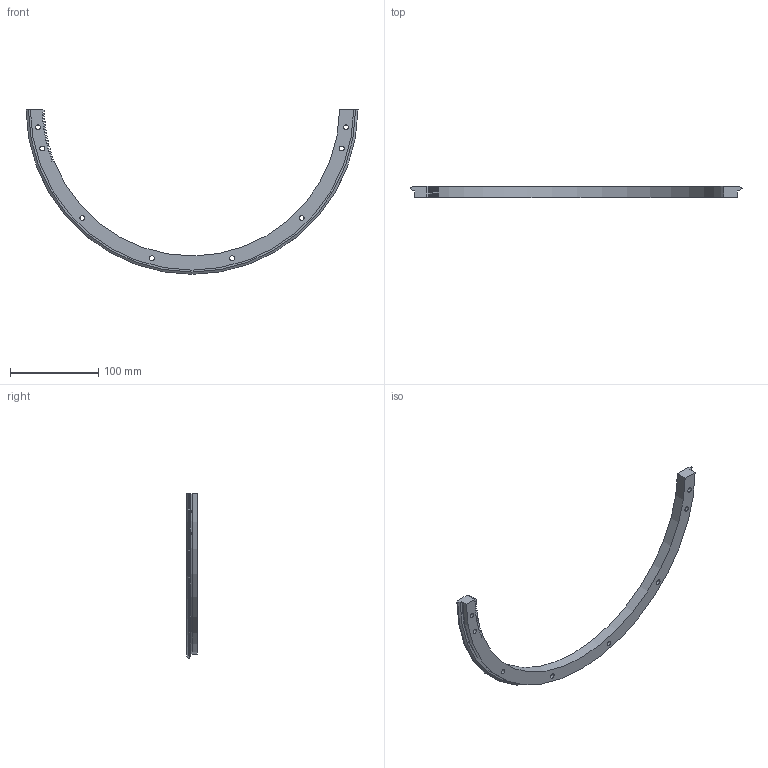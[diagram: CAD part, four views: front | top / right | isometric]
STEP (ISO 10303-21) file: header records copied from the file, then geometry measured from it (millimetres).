
FILE_DESCRIPTION( ( 'STEP AP203' ), '1' );
FILE_NAME( 'p:/temp/worker_19/temp/exporttempdir_3056_784_qPdTc/format_0/TRES 376 R180 Q .stp', '2021-09-17T07:48:40', ( 'License CC BY-ND 4.0' ), ( 'CADENAS' ), ' ', 'PARTsolutions', ' ' );
FILE_SCHEMA( ( 'CONFIG_CONTROL_DESIGN' ) );
Length unit declared in the file: millimetre
Products named in the file (1): _TRES 376 R180 Q 
Bounding box: 375.58 x 12.25 x 186.3 mm (x, y, z)
Volume: 110729 mm3; surface area: 38576.1 mm2
Topology: 1 solids, 1 shells, 113 faces, 309 edges, 206 vertices
Faces by surface type: cylinder 57, plane 53, cone 2, torus 1
Full cylindrical faces by diameter (mm): 5.5 x8, 10 x8
Entity records: 3639 total; most frequent: CARTESIAN_POINT 644, DIRECTION 633, ORIENTED_EDGE 586, EDGE_CURVE 293, AXIS2_PLACEMENT_3D 232, VERTEX_POINT 207, LINE 169, VECTOR 169
